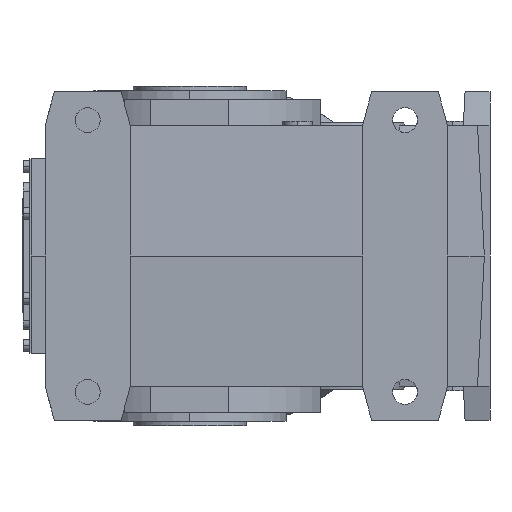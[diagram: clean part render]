
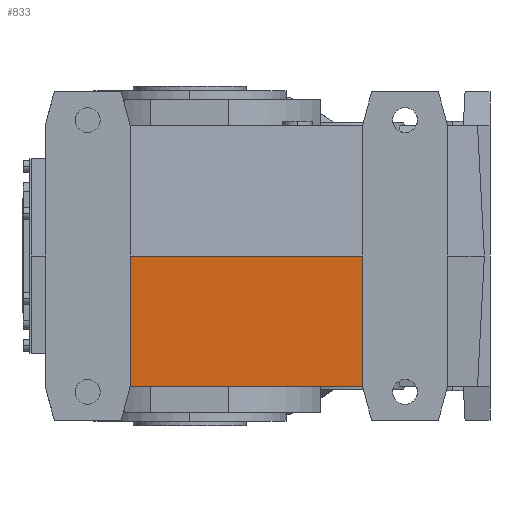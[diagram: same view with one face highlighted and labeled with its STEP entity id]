
A CAD part, left-side view. The second image highlights one B-rep face of the part: STEP entity #833.
In plain terms, the highlighted planar face has unit normal (-0.999, 0, -0.052).
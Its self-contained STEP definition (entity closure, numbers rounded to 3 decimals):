
#833 = ADVANCED_FACE( '', ( #3814 ), #3815, .F. );
#3814 = FACE_OUTER_BOUND( '', #9390, .T. );
#3815 = PLANE( '', #9391 );
#9390 = EDGE_LOOP( '', ( #16491, #16492, #16493, #16494 ) );
#9391 = AXIS2_PLACEMENT_3D( '', #16495, #16496, #16497 );
#16491 = ORIENTED_EDGE( '', *, *, #37636, .F. );
#16492 = ORIENTED_EDGE( '', *, *, #37633, .F. );
#16493 = ORIENTED_EDGE( '', *, *, #37637, .F. );
#16494 = ORIENTED_EDGE( '', *, *, #37638, .T. );
#16495 = CARTESIAN_POINT( '', ( -155., 52.5, 0. ) );
#16496 = DIRECTION( '', ( 0.999, 0., 0.052 ) );
#16497 = DIRECTION( '', ( -0.052, 0., 0.999 ) );
#37633 = EDGE_CURVE( '', #45413, #45415, #45416, .T. );
#37636 = EDGE_CURVE( '', #45415, #45420, #45421, .T. );
#37637 = EDGE_CURVE( '', #45422, #45413, #45423, .T. );
#37638 = EDGE_CURVE( '', #45422, #45420, #45424, .T. );
#45413 = VERTEX_POINT( '', #57981 );
#45415 = VERTEX_POINT( '', #57984 );
#45416 = LINE( '', #57985, #57986 );
#45420 = VERTEX_POINT( '', #57992 );
#45421 = LINE( '', #57993, #57994 );
#45422 = VERTEX_POINT( '', #57995 );
#45423 = LINE( '', #57996, #57997 );
#45424 = LINE( '', #57998, #57999 );
#57981 = CARTESIAN_POINT( '', ( -155., -152.5, 0. ) );
#57984 = CARTESIAN_POINT( '', ( -148.973, -152.5, -115. ) );
#57985 = CARTESIAN_POINT( '', ( -155., -152.5, 0. ) );
#57986 = VECTOR( '', #76531, 1. );
#57992 = CARTESIAN_POINT( '', ( -148.973, 52.5, -115. ) );
#57993 = CARTESIAN_POINT( '', ( -148.973, 9.25, -115. ) );
#57994 = VECTOR( '', #76534, 1. );
#57995 = CARTESIAN_POINT( '', ( -155., 52.5, 0. ) );
#57996 = CARTESIAN_POINT( '', ( -155., 52.5, 0. ) );
#57997 = VECTOR( '', #76535, 1. );
#57998 = CARTESIAN_POINT( '', ( -155., 52.5, 0. ) );
#57999 = VECTOR( '', #76536, 1. );
#76531 = DIRECTION( '', ( 0.052, 0., -0.999 ) );
#76534 = DIRECTION( '', ( 0., 1., 0. ) );
#76535 = DIRECTION( '', ( 0., -1., 0. ) );
#76536 = DIRECTION( '', ( 0.052, 0., -0.999 ) );
